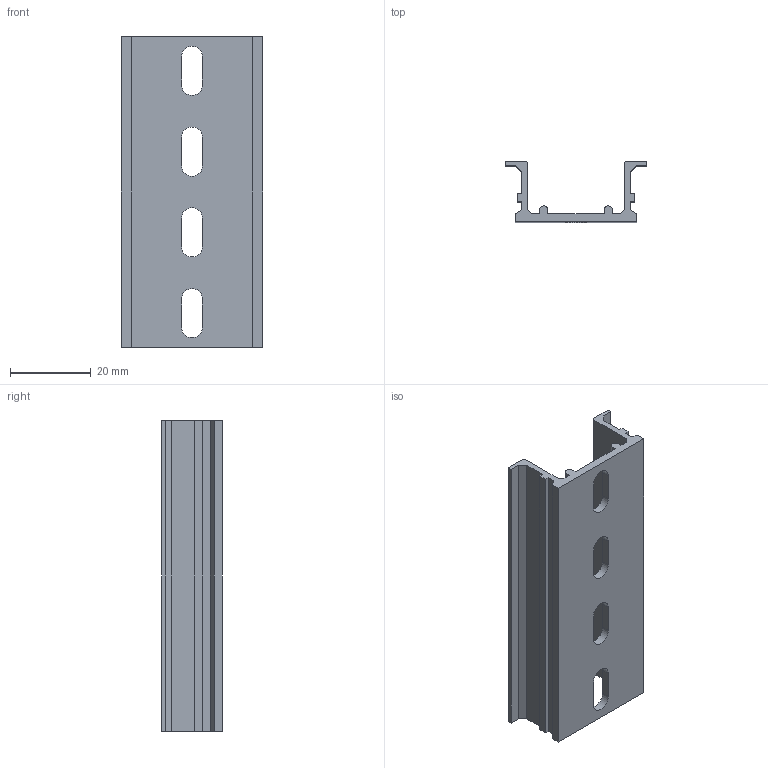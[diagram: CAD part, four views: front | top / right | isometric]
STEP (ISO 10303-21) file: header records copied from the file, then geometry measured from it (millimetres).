
FILE_DESCRIPTION(/* description */ (''),/* implementation_level */ '2;1');
FILE_NAME(/* name */ '22646-(TKB KD-4)HP 3D.stp',/* time_stamp */ '2024-12-05T13:51:57+09:00',/* author */ ('usercadg104'),/* organization */ (''),/* preprocessor_version */ 'ST-DEVELOPER v19.2',/* originating_system */ 'Autodesk Inventor 2023',/* authorisation */ '');
FILE_SCHEMA (('CONFIG_CONTROL_DESIGN'));
Length unit declared in the file: millimetre
Products named in the file (1): 22646-(TKB KD-4)HP 3D
Bounding box: 35 x 15 x 77 mm (x, y, z)
Volume: 8993.3 mm3; surface area: 10617 mm2
Topology: 1 solids, 1 shells, 56 faces, 162 edges, 108 vertices
Faces by surface type: plane 44, cylinder 12
Entity records: 1889 total; most frequent: CARTESIAN_POINT 327, ORIENTED_EDGE 324, DIRECTION 300, EDGE_CURVE 162, LINE 138, VECTOR 138, VERTEX_POINT 108, AXIS2_PLACEMENT_3D 81
